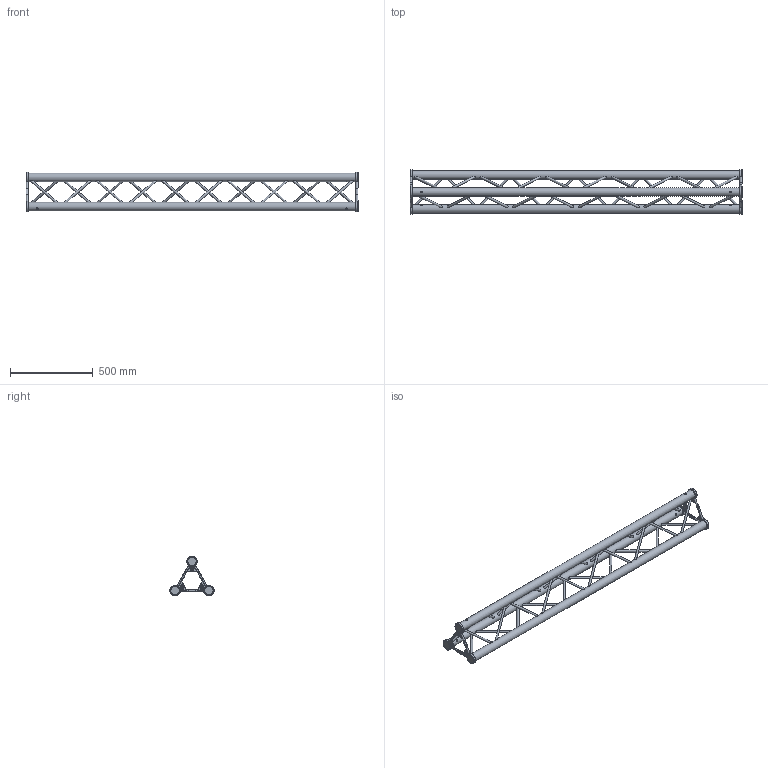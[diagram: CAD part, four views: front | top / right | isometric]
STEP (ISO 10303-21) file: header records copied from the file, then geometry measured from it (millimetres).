
FILE_DESCRIPTION(/* description */ (''),/* implementation_level */ '2;1');
FILE_NAME(/* name */ 'C:\Users\stephan\Desktop\A03\112040015.stp',/* time_stamp */ '2016-01-20T14:44:30+01:00',/* author */ ('Stephan'),/* organization */ (''),/* preprocessor_version */ 'ST-DEVELOPER v15.6',/* originating_system */ 'Autodesk Inventor 2015',/* authorisation */ '');
FILE_SCHEMA (('AUTOMOTIVE_DESIGN { 1 0 10303 214 3 1 1 }'));
Length unit declared in the file: millimetre
Products named in the file (1): 160025615
Bounding box: 2000 x 266.3 x 239.1 mm (x, y, z)
Volume: 13185986.4 mm3; surface area: 1333728.3 mm2
Topology: 37 solids, 37 shells, 379 faces, 795 edges, 504 vertices
Faces by surface type: plane 222, cylinder 133, cone 12, torus 12
Full cylindrical faces by diameter (mm): 10.5 x6, 11.5 x12, 12.7 x30, 23.5 x6, 50.8 x3, 51.3 x6, 63.3 x6
Entity records: 11593 total; most frequent: CARTESIAN_POINT 3176, DIRECTION 1596, ORIENTED_EDGE 1488, EDGE_CURVE 684, AXIS2_PLACEMENT_3D 660, EDGE_LOOP 576, VERTEX_POINT 480, STYLED_ITEM 378
